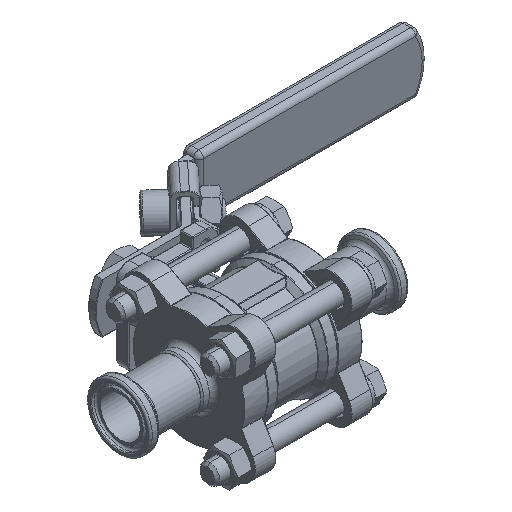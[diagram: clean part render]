
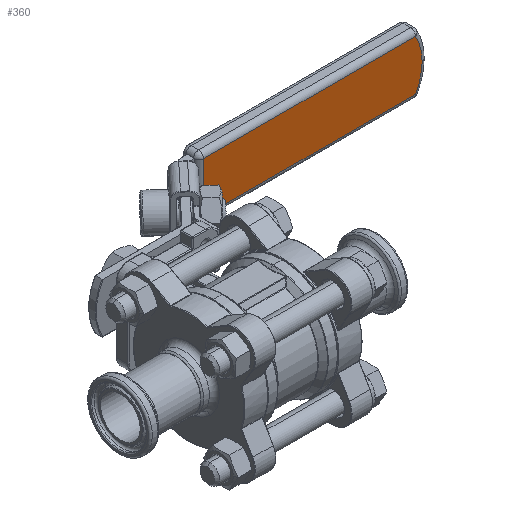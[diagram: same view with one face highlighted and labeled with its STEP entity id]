
A CAD part, isometric view. The second image highlights one B-rep face of the part: STEP entity #360.
In plain terms, the highlighted planar face has unit normal (0, -1, 0) as drawn and (0, 0, 1) by its records, which use the part's own axes.
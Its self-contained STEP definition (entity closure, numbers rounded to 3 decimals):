
#230 = LINE ( 'NONE', #2262, #23091 ) ;
#328 = AXIS2_PLACEMENT_3D ( 'NONE', #25947, #14598, #16880 ) ;
#360 = ADVANCED_FACE ( 'NONE', ( #18838 ), #1636, .T. ) ;
#881 = CARTESIAN_POINT ( 'NONE',  ( 69., 0., 3.5 ) ) ;
#1636 = PLANE ( 'NONE',  #328 ) ;
#2262 = CARTESIAN_POINT ( 'NONE',  ( 2., 0., 3.5 ) ) ;
#3185 = DIRECTION ( 'NONE',  ( 0., 0., 1. ) ) ;
#3389 = CIRCLE ( 'NONE', #3990, 20. ) ;
#3829 = EDGE_LOOP ( 'NONE', ( #23277, #14229, #23090, #25349, #13175 ) ) ;
#3990 = AXIS2_PLACEMENT_3D ( 'NONE', #881, #3185, #8898 ) ;
#4035 = EDGE_CURVE ( 'NONE', #8103, #23720, #230, .T. ) ;
#4726 = CIRCLE ( 'NONE', #25077, 20. ) ;
#4956 = CARTESIAN_POINT ( 'NONE',  ( 86.321, 10., 3.5 ) ) ;
#5956 = VERTEX_POINT ( 'NONE', #23258 ) ;
#6049 = DIRECTION ( 'NONE',  ( 0., 0., 1. ) ) ;
#8069 = LINE ( 'NONE', #11142, #13197 ) ;
#8103 = VERTEX_POINT ( 'NONE', #24311 ) ;
#8747 = CARTESIAN_POINT ( 'NONE',  ( 0., 10., 3.5 ) ) ;
#8898 = DIRECTION ( 'NONE',  ( 1., 0., 0. ) ) ;
#10081 = VERTEX_POINT ( 'NONE', #15388 ) ;
#10741 = EDGE_CURVE ( 'NONE', #10081, #5956, #3389, .T. ) ;
#11142 = CARTESIAN_POINT ( 'NONE',  ( 0., -10., 3.5 ) ) ;
#12243 = EDGE_CURVE ( 'NONE', #23720, #10081, #8069, .T. ) ;
#13175 = ORIENTED_EDGE ( 'NONE', *, *, #18727, .T. ) ;
#13197 = VECTOR ( 'NONE', #15366, 1000. ) ;
#14229 = ORIENTED_EDGE ( 'NONE', *, *, #4035, .T. ) ;
#14494 = VECTOR ( 'NONE', #19922, 1000. ) ;
#14598 = DIRECTION ( 'NONE',  ( 0., 0., 1. ) ) ;
#14706 = CARTESIAN_POINT ( 'NONE',  ( 69., 0., 3.5 ) ) ;
#15366 = DIRECTION ( 'NONE',  ( 1., 0., 0. ) ) ;
#15388 = CARTESIAN_POINT ( 'NONE',  ( 86.321, -10., 3.5 ) ) ;
#16880 = DIRECTION ( 'NONE',  ( 1., 0., 0. ) ) ;
#16966 = VERTEX_POINT ( 'NONE', #4956 ) ;
#18727 = EDGE_CURVE ( 'NONE', #5956, #16966, #4726, .T. ) ;
#18838 = FACE_OUTER_BOUND ( 'NONE', #3829, .T. ) ;
#19922 = DIRECTION ( 'NONE',  ( -1., 0., 0. ) ) ;
#21226 = DIRECTION ( 'NONE',  ( 1., 0., 0. ) ) ;
#21720 = DIRECTION ( 'NONE',  ( 0., -1., 0. ) ) ;
#23090 = ORIENTED_EDGE ( 'NONE', *, *, #12243, .T. ) ;
#23091 = VECTOR ( 'NONE', #21720, 1000. ) ;
#23258 = CARTESIAN_POINT ( 'NONE',  ( 89., 0., 3.5 ) ) ;
#23277 = ORIENTED_EDGE ( 'NONE', *, *, #26201, .T. ) ;
#23720 = VERTEX_POINT ( 'NONE', #25527 ) ;
#24311 = CARTESIAN_POINT ( 'NONE',  ( 2., 10., 3.5 ) ) ;
#24394 = LINE ( 'NONE', #8747, #14494 ) ;
#25077 = AXIS2_PLACEMENT_3D ( 'NONE', #14706, #6049, #21226 ) ;
#25349 = ORIENTED_EDGE ( 'NONE', *, *, #10741, .T. ) ;
#25527 = CARTESIAN_POINT ( 'NONE',  ( 2., -10., 3.5 ) ) ;
#25947 = CARTESIAN_POINT ( 'NONE',  ( 0., 0., 3.5 ) ) ;
#26201 = EDGE_CURVE ( 'NONE', #16966, #8103, #24394, .T. ) ;
